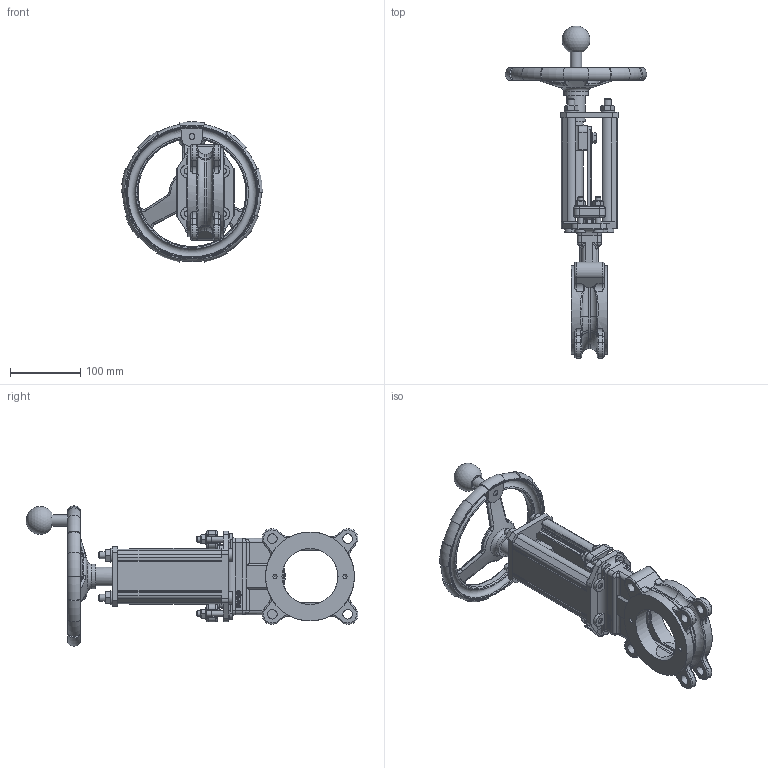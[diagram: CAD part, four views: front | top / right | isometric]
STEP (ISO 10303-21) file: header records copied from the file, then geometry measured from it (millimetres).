
FILE_DESCRIPTION(/* description */ (''),/* implementation_level */ '2;1');
FILE_NAME(/* name */ 'F:\3D Sammanställningar\WB\DN80\WB14E-DN80-ANSI150-HW.stp',/* time_stamp */ '2021-06-29T08:58:35+02:00',/* author */ ('MATZET'),/* organization */ (''),/* preprocessor_version */ 'ST-DEVELOPER v18',/* originating_system */ 'Autodesk Inventor 2020',/* authorisation */ '');
FILE_SCHEMA (('AUTOMOTIVE_DESIGN { 1 0 10303 214 3 1 1 }'));
Products named in the file (1): WB14E-DN80-ANSI150-HW_Shrinkwrap_1
Bounding box: 201.92 x 473.94 x 200.21 mm (x, y, z)
Volume: 1314996.3 mm3; surface area: 394482.9 mm2
Topology: 1 solids, 1 shells, 1764 faces, 4643 edges, 2938 vertices
Faces by surface type: plane 801, cylinder 378, bspline 359, torus 159, cone 58, sphere 9
Full cylindrical faces by diameter (mm): 6 x2, 7 x1, 8 x12, 8.376 x5, 8.4 x4, 10 x13, 10.5 x4, 11 x4, 11.63 x2, 13 x4, 13.835 x8, 15 x1, 15.5 x1, 16 x7, 20 x7, 22 x1, 27 x2, 35 x1, 80 x2, 127 x2, 185 x1
Entity records: 61920 total; most frequent: CARTESIAN_POINT 19771, ORIENTED_EDGE 9224, DIRECTION 7721, EDGE_CURVE 4612, VERTEX_POINT 2938, AXIS2_PLACEMENT_3D 2680, LINE 2361, VECTOR 2361
